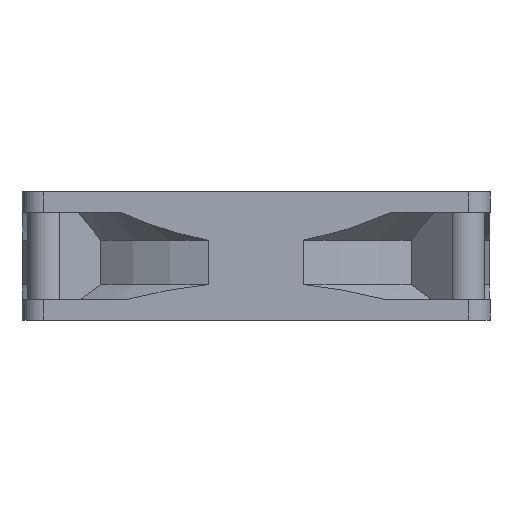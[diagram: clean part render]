
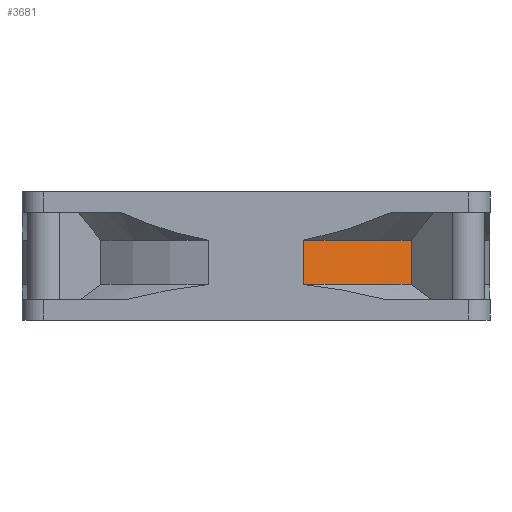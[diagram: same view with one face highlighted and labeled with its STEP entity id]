
A CAD part, left-side view. The second image highlights one B-rep face of the part: STEP entity #3681.
In plain terms, the highlighted cylindrical face has radius 46.944 mm (diameter 93.888 mm), a partial arc.
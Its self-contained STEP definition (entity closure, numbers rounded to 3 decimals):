
#74 = DIRECTION ( 'NONE',  ( -1., 0., 0. ) ) ;
#357 = CARTESIAN_POINT ( 'NONE',  ( -35.675, -30.513, 7. ) ) ;
#2161 = ORIENTED_EDGE ( 'NONE', *, *, #9536, .T. ) ;
#2308 = VERTEX_POINT ( 'NONE', #357 ) ;
#3393 = DIRECTION ( 'NONE',  ( -1., 0., 0. ) ) ;
#3681 = ADVANCED_FACE ( 'NONE', ( #8995 ), #4873, .T. ) ;
#3733 = DIRECTION ( 'NONE',  ( 0., 0., -1. ) ) ;
#3916 = ORIENTED_EDGE ( 'NONE', *, *, #11402, .F. ) ;
#4394 = LINE ( 'NONE', #5926, #15019 ) ;
#4700 = VECTOR ( 'NONE', #13681, 1000. ) ;
#4873 = CYLINDRICAL_SURFACE ( 'NONE', #15263, 46.944 ) ;
#5005 = EDGE_CURVE ( 'NONE', #2308, #12392, #4394, .T. ) ;
#5154 = CARTESIAN_POINT ( 'NONE',  ( -46., -9.366, -21.717 ) ) ;
#5573 = AXIS2_PLACEMENT_3D ( 'NONE', #16632, #8366, #74 ) ;
#5772 = VERTEX_POINT ( 'NONE', #7167 ) ;
#5926 = CARTESIAN_POINT ( 'NONE',  ( -35.675, -30.513, -500000. ) ) ;
#6135 = CARTESIAN_POINT ( 'NONE',  ( 0., 0., -21.717 ) ) ;
#6990 = CARTESIAN_POINT ( 'NONE',  ( -35.675, -30.513, 15.7 ) ) ;
#7167 = CARTESIAN_POINT ( 'NONE',  ( -46., -9.366, 15.7 ) ) ;
#7906 = CIRCLE ( 'NONE', #5573, 46.944 ) ;
#8366 = DIRECTION ( 'NONE',  ( 0., 0., -1. ) ) ;
#8995 = FACE_OUTER_BOUND ( 'NONE', #17274, .T. ) ;
#9536 = EDGE_CURVE ( 'NONE', #12392, #5772, #15781, .T. ) ;
#9825 = ORIENTED_EDGE ( 'NONE', *, *, #14472, .F. ) ;
#11238 = AXIS2_PLACEMENT_3D ( 'NONE', #12036, #3733, #13421 ) ;
#11402 = EDGE_CURVE ( 'NONE', #12143, #5772, #12071, .T. ) ;
#11813 = ORIENTED_EDGE ( 'NONE', *, *, #5005, .T. ) ;
#12036 = CARTESIAN_POINT ( 'NONE',  ( 0., 0., 15.7 ) ) ;
#12071 = LINE ( 'NONE', #5154, #4700 ) ;
#12143 = VERTEX_POINT ( 'NONE', #15708 ) ;
#12392 = VERTEX_POINT ( 'NONE', #6990 ) ;
#13421 = DIRECTION ( 'NONE',  ( -1., 0., 0. ) ) ;
#13681 = DIRECTION ( 'NONE',  ( 0., 0., 1. ) ) ;
#14205 = DIRECTION ( 'NONE',  ( 0., 0., 1. ) ) ;
#14472 = EDGE_CURVE ( 'NONE', #2308, #12143, #7906, .T. ) ;
#15019 = VECTOR ( 'NONE', #14205, 1000. ) ;
#15263 = AXIS2_PLACEMENT_3D ( 'NONE', #6135, #15851, #3393 ) ;
#15708 = CARTESIAN_POINT ( 'NONE',  ( -46., -9.366, 7. ) ) ;
#15781 = CIRCLE ( 'NONE', #11238, 46.944 ) ;
#15851 = DIRECTION ( 'NONE',  ( 0., 0., -1. ) ) ;
#16632 = CARTESIAN_POINT ( 'NONE',  ( 0., 0., 7. ) ) ;
#17274 = EDGE_LOOP ( 'NONE', ( #9825, #11813, #2161, #3916 ) ) ;
